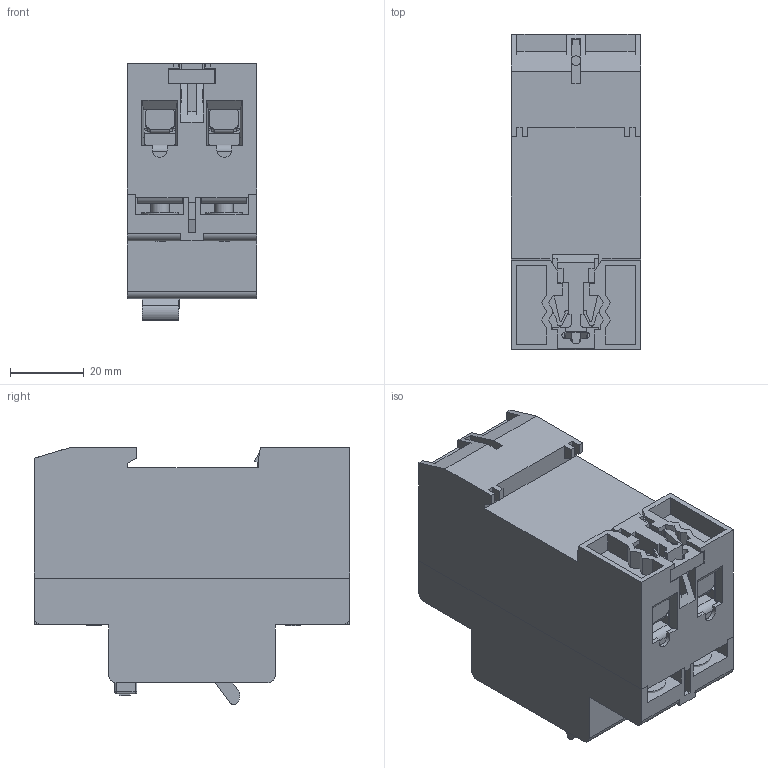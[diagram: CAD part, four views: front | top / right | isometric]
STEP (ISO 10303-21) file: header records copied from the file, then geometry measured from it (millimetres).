
FILE_DESCRIPTION (( 'STEP AP214' ), '1' );
FILE_NAME ('OptiDin DM63 2P 80-100À.STEP', '2017-02-21T07:12:33', ( 'Ãóëÿåâ Âëàäèìèð Íèêîëàåâè÷' ), ( '' ), 'SwSTEP 2.0', 'SolidWorks 2012', '' );
FILE_SCHEMA (( 'AUTOMOTIVE_DESIGN' ));
Length unit declared in the file: millimetre
Products named in the file (11): âèíò çàòÿæíîé â êîëîäêó; âûâîä ñ ñåðåáðîì; âûâîä êîðîòêèé; Êîëîäêà óïðîù¸ííî; âèíò ñ øåñòèãðàííèêîì; Çàùåëêà; 扱闀罻 蠈嚦; Ðó÷êà; Êîðïóñ 2Ð; ﾎ魵瑙韃 2ﾐ; OptiDin DM63 2P 80-100À
Assembly tree (19 placements, depth 2):
  OptiDin DM63 2P 80-100À
    ﾎ魵瑙韃 2ﾐ
    Êîðïóñ 2Ð
    Ðó÷êà
    扱闀罻 蠈嚦
    Çàùåëêà
    âèíò ñ øåñòèãðàííèêîì  x2
    Êîëîäêà óïðîù¸ííî  x4
    âûâîä êîðîòêèé  x2
    âûâîä ñ ñåðåáðîì  x2
    âèíò çàòÿæíîé â êîëîäêó  x4
Bounding box: 35 x 85.3 x 69.7 mm (x, y, z)
Volume: 140447 mm3; surface area: 51027.7 mm2
Topology: 19 solids, 19 shells, 1442 faces, 3916 edges, 2451 vertices
Faces by surface type: plane 791, cylinder 373, torus 88, bspline 75, sphere 71, cone 44
Entity records: 35892 total; most frequent: CARTESIAN_POINT 9293, ORIENTED_EDGE 5538, DIRECTION 5389, EDGE_CURVE 2769, VECTOR 1819, LINE 1819, AXIS2_PLACEMENT_3D 1785, VERTEX_POINT 1737
